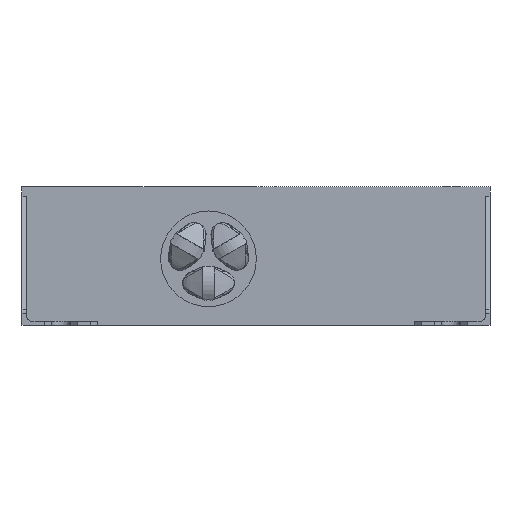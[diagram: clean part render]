
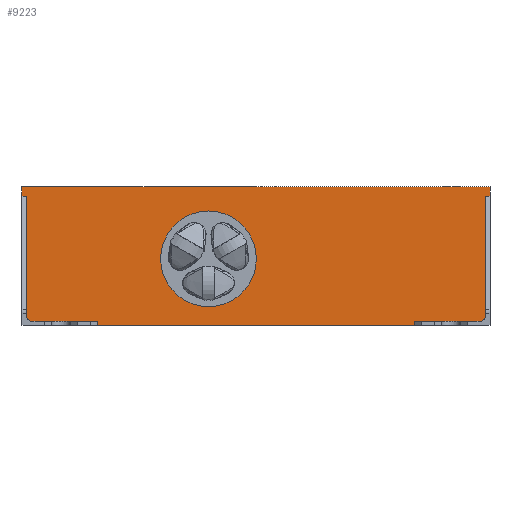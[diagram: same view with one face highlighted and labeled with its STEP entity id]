
A CAD part, front view. The second image highlights one B-rep face of the part: STEP entity #9223.
In plain terms, the highlighted planar face has unit normal (0, -1, 0).
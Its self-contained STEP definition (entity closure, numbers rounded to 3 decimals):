
#38 = VECTOR ( 'NONE', #10037, 1000. ) ;
#122 = AXIS2_PLACEMENT_3D ( 'NONE', #4749, #3225, #9441 ) ;
#129 = PLANE ( 'NONE',  #151 ) ;
#151 = AXIS2_PLACEMENT_3D ( 'NONE', #527, #5227, #224 ) ;
#224 = DIRECTION ( 'NONE',  ( 0., 0., -1. ) ) ;
#258 = LINE ( 'NONE', #17394, #9433 ) ;
#464 = ORIENTED_EDGE ( 'NONE', *, *, #16112, .F. ) ;
#527 = CARTESIAN_POINT ( 'NONE',  ( -165., -292.5, -948.34 ) ) ;
#550 = CARTESIAN_POINT ( 'NONE',  ( -112., -292.5, -948.34 ) ) ;
#599 = CARTESIAN_POINT ( 'NONE',  ( -162., -292.5, 82.5 ) ) ;
#801 = DIRECTION ( 'NONE',  ( 0., 0., 1. ) ) ;
#916 = CARTESIAN_POINT ( 'NONE',  ( -33.5, -292.5, 72.25 ) ) ;
#951 = CIRCLE ( 'NONE', #20162, 33.75 ) ;
#1028 = VECTOR ( 'NONE', #10494, 1000. ) ;
#1232 = EDGE_LOOP ( 'NONE', ( #4812, #1239, #12489, #19880, #7536, #464, #19594, #15921, #17771, #6858, #6376, #13105, #14980, #15653 ) ) ;
#1239 = ORIENTED_EDGE ( 'NONE', *, *, #10903, .T. ) ;
#1327 = CIRCLE ( 'NONE', #13030, 33.75 ) ;
#1446 = VERTEX_POINT ( 'NONE', #10081 ) ;
#1496 = LINE ( 'NONE', #11164, #2670 ) ;
#1585 = DIRECTION ( 'NONE',  ( 0., 0., 1. ) ) ;
#1783 = CARTESIAN_POINT ( 'NONE',  ( 162., -292.5, -1.5 ) ) ;
#1823 = DIRECTION ( 'NONE',  ( 1., 0., 0. ) ) ;
#1869 = DIRECTION ( 'NONE',  ( 1., 0., 0. ) ) ;
#2071 = VERTEX_POINT ( 'NONE', #15989 ) ;
#2346 = VERTEX_POINT ( 'NONE', #4152 ) ;
#2406 = DIRECTION ( 'NONE',  ( 0., -1., 0. ) ) ;
#2415 = CARTESIAN_POINT ( 'NONE',  ( 165., -292.5, 82.5 ) ) ;
#2563 = DIRECTION ( 'NONE',  ( 0., -1., 0. ) ) ;
#2670 = VECTOR ( 'NONE', #1585, 1000. ) ;
#2689 = CARTESIAN_POINT ( 'NONE',  ( -162., -292.5, -948.34 ) ) ;
#3225 = DIRECTION ( 'NONE',  ( 0., -1., 0. ) ) ;
#3467 = EDGE_CURVE ( 'NONE', #7110, #2071, #16181, .T. ) ;
#3818 = CARTESIAN_POINT ( 'NONE',  ( -33.5, -292.5, 38.5 ) ) ;
#3985 = ORIENTED_EDGE ( 'NONE', *, *, #19671, .F. ) ;
#4087 = CARTESIAN_POINT ( 'NONE',  ( 158., -292.5, -1.5 ) ) ;
#4152 = CARTESIAN_POINT ( 'NONE',  ( 112., -292.5, -5.5 ) ) ;
#4191 = DIRECTION ( 'NONE',  ( -1., 0., 0. ) ) ;
#4563 = VECTOR ( 'NONE', #1869, 1000. ) ;
#4749 = CARTESIAN_POINT ( 'NONE',  ( -158., -292.5, -1.5 ) ) ;
#4812 = ORIENTED_EDGE ( 'NONE', *, *, #7818, .T. ) ;
#4887 = VECTOR ( 'NONE', #801, 1000. ) ;
#4944 = VERTEX_POINT ( 'NONE', #19944 ) ;
#5158 = CARTESIAN_POINT ( 'NONE',  ( -112., -292.5, -8.5 ) ) ;
#5227 = DIRECTION ( 'NONE',  ( 0., -1., 0. ) ) ;
#5321 = EDGE_CURVE ( 'NONE', #10290, #8358, #258, .T. ) ;
#5470 = VERTEX_POINT ( 'NONE', #5158 ) ;
#5490 = CARTESIAN_POINT ( 'NONE',  ( -158., -292.5, -5.5 ) ) ;
#5576 = CARTESIAN_POINT ( 'NONE',  ( -112., -292.5, -5.5 ) ) ;
#5670 = EDGE_CURVE ( 'NONE', #19282, #8358, #11253, .T. ) ;
#6134 = VERTEX_POINT ( 'NONE', #916 ) ;
#6255 = EDGE_CURVE ( 'NONE', #1446, #8590, #17655, .T. ) ;
#6262 = CARTESIAN_POINT ( 'NONE',  ( 112., -292.5, -8.5 ) ) ;
#6376 = ORIENTED_EDGE ( 'NONE', *, *, #16609, .F. ) ;
#6557 = LINE ( 'NONE', #17245, #17748 ) ;
#6858 = ORIENTED_EDGE ( 'NONE', *, *, #3467, .T. ) ;
#6918 = CARTESIAN_POINT ( 'NONE',  ( 162., -292.5, -948.34 ) ) ;
#7052 = VERTEX_POINT ( 'NONE', #12590 ) ;
#7110 = VERTEX_POINT ( 'NONE', #1783 ) ;
#7457 = LINE ( 'NONE', #16729, #10797 ) ;
#7536 = ORIENTED_EDGE ( 'NONE', *, *, #17161, .T. ) ;
#7542 = LINE ( 'NONE', #8964, #1028 ) ;
#7580 = DIRECTION ( 'NONE',  ( 0., 0., -1. ) ) ;
#7818 = EDGE_CURVE ( 'NONE', #4944, #7052, #8039, .T. ) ;
#7919 = DIRECTION ( 'NONE',  ( 0., 0., 1. ) ) ;
#7937 = VERTEX_POINT ( 'NONE', #19982 ) ;
#8039 = LINE ( 'NONE', #599, #17334 ) ;
#8110 = LINE ( 'NONE', #17397, #8814 ) ;
#8358 = VERTEX_POINT ( 'NONE', #19631 ) ;
#8552 = EDGE_LOOP ( 'NONE', ( #10108, #3985 ) ) ;
#8590 = VERTEX_POINT ( 'NONE', #5490 ) ;
#8651 = CIRCLE ( 'NONE', #11575, 4. ) ;
#8768 = DIRECTION ( 'NONE',  ( 0., 0., -1. ) ) ;
#8814 = VECTOR ( 'NONE', #16166, 1000. ) ;
#8964 = CARTESIAN_POINT ( 'NONE',  ( 165., -292.5, 82.5 ) ) ;
#9202 = EDGE_CURVE ( 'NONE', #13955, #8590, #6557, .T. ) ;
#9223 = ADVANCED_FACE ( 'NONE', ( #11142, #16122 ), #129, .T. ) ;
#9433 = VECTOR ( 'NONE', #7919, 1000. ) ;
#9441 = DIRECTION ( 'NONE',  ( 0., 0., -1. ) ) ;
#9502 = DIRECTION ( 'NONE',  ( -1., 0., 0. ) ) ;
#9942 = EDGE_CURVE ( 'NONE', #12757, #7110, #8651, .T. ) ;
#10037 = DIRECTION ( 'NONE',  ( 0., 0., -1. ) ) ;
#10081 = CARTESIAN_POINT ( 'NONE',  ( -162., -292.5, -1.5 ) ) ;
#10108 = ORIENTED_EDGE ( 'NONE', *, *, #14393, .F. ) ;
#10290 = VERTEX_POINT ( 'NONE', #2415 ) ;
#10426 = LINE ( 'NONE', #2689, #16431 ) ;
#10494 = DIRECTION ( 'NONE',  ( -1., 0., 0. ) ) ;
#10797 = VECTOR ( 'NONE', #4191, 1000. ) ;
#10903 = EDGE_CURVE ( 'NONE', #7052, #1446, #10426, .T. ) ;
#11031 = LINE ( 'NONE', #13364, #17932 ) ;
#11142 = FACE_OUTER_BOUND ( 'NONE', #1232, .T. ) ;
#11164 = CARTESIAN_POINT ( 'NONE',  ( -165., -292.5, -948.34 ) ) ;
#11253 = LINE ( 'NONE', #15828, #4563 ) ;
#11575 = AXIS2_PLACEMENT_3D ( 'NONE', #4087, #2563, #8768 ) ;
#11868 = CARTESIAN_POINT ( 'NONE',  ( -33.5, -292.5, 38.5 ) ) ;
#12489 = ORIENTED_EDGE ( 'NONE', *, *, #6255, .T. ) ;
#12590 = CARTESIAN_POINT ( 'NONE',  ( -162., -292.5, 82.5 ) ) ;
#12757 = VERTEX_POINT ( 'NONE', #17223 ) ;
#13030 = AXIS2_PLACEMENT_3D ( 'NONE', #11868, #13381, #15313 ) ;
#13105 = ORIENTED_EDGE ( 'NONE', *, *, #5321, .T. ) ;
#13364 = CARTESIAN_POINT ( 'NONE',  ( -165., -292.5, -5.5 ) ) ;
#13381 = DIRECTION ( 'NONE',  ( 0., -1., 0. ) ) ;
#13955 = VERTEX_POINT ( 'NONE', #5576 ) ;
#14393 = EDGE_CURVE ( 'NONE', #7937, #6134, #1327, .T. ) ;
#14521 = LINE ( 'NONE', #550, #38 ) ;
#14967 = EDGE_CURVE ( 'NONE', #12757, #2346, #11031, .T. ) ;
#14980 = ORIENTED_EDGE ( 'NONE', *, *, #5670, .F. ) ;
#15313 = DIRECTION ( 'NONE',  ( 0., 0., -1. ) ) ;
#15653 = ORIENTED_EDGE ( 'NONE', *, *, #17080, .F. ) ;
#15682 = EDGE_CURVE ( 'NONE', #19775, #2346, #8110, .T. ) ;
#15828 = CARTESIAN_POINT ( 'NONE',  ( -165., -292.5, 89.5 ) ) ;
#15921 = ORIENTED_EDGE ( 'NONE', *, *, #14967, .F. ) ;
#15989 = CARTESIAN_POINT ( 'NONE',  ( 162., -292.5, 82.5 ) ) ;
#16112 = EDGE_CURVE ( 'NONE', #19775, #5470, #7457, .T. ) ;
#16122 = FACE_BOUND ( 'NONE', #8552, .T. ) ;
#16166 = DIRECTION ( 'NONE',  ( 0., 0., 1. ) ) ;
#16181 = LINE ( 'NONE', #6918, #4887 ) ;
#16431 = VECTOR ( 'NONE', #7580, 1000. ) ;
#16609 = EDGE_CURVE ( 'NONE', #10290, #2071, #7542, .T. ) ;
#16729 = CARTESIAN_POINT ( 'NONE',  ( -165., -292.5, -8.5 ) ) ;
#17080 = EDGE_CURVE ( 'NONE', #4944, #19282, #1496, .T. ) ;
#17161 = EDGE_CURVE ( 'NONE', #13955, #5470, #14521, .T. ) ;
#17223 = CARTESIAN_POINT ( 'NONE',  ( 158., -292.5, -5.5 ) ) ;
#17245 = CARTESIAN_POINT ( 'NONE',  ( -165., -292.5, -5.5 ) ) ;
#17334 = VECTOR ( 'NONE', #1823, 1000. ) ;
#17394 = CARTESIAN_POINT ( 'NONE',  ( 165., -292.5, -948.34 ) ) ;
#17397 = CARTESIAN_POINT ( 'NONE',  ( 112., -292.5, -948.34 ) ) ;
#17655 = CIRCLE ( 'NONE', #122, 4. ) ;
#17748 = VECTOR ( 'NONE', #9502, 1000. ) ;
#17761 = DIRECTION ( 'NONE',  ( -1., 0., 0. ) ) ;
#17771 = ORIENTED_EDGE ( 'NONE', *, *, #9942, .T. ) ;
#17932 = VECTOR ( 'NONE', #17761, 1000. ) ;
#19282 = VERTEX_POINT ( 'NONE', #19786 ) ;
#19594 = ORIENTED_EDGE ( 'NONE', *, *, #15682, .T. ) ;
#19631 = CARTESIAN_POINT ( 'NONE',  ( 165., -292.5, 89.5 ) ) ;
#19634 = DIRECTION ( 'NONE',  ( 0., 0., -1. ) ) ;
#19671 = EDGE_CURVE ( 'NONE', #6134, #7937, #951, .T. ) ;
#19775 = VERTEX_POINT ( 'NONE', #6262 ) ;
#19786 = CARTESIAN_POINT ( 'NONE',  ( -165., -292.5, 89.5 ) ) ;
#19880 = ORIENTED_EDGE ( 'NONE', *, *, #9202, .F. ) ;
#19944 = CARTESIAN_POINT ( 'NONE',  ( -165., -292.5, 82.5 ) ) ;
#19982 = CARTESIAN_POINT ( 'NONE',  ( -33.5, -292.5, 4.75 ) ) ;
#20162 = AXIS2_PLACEMENT_3D ( 'NONE', #3818, #2406, #19634 ) ;
